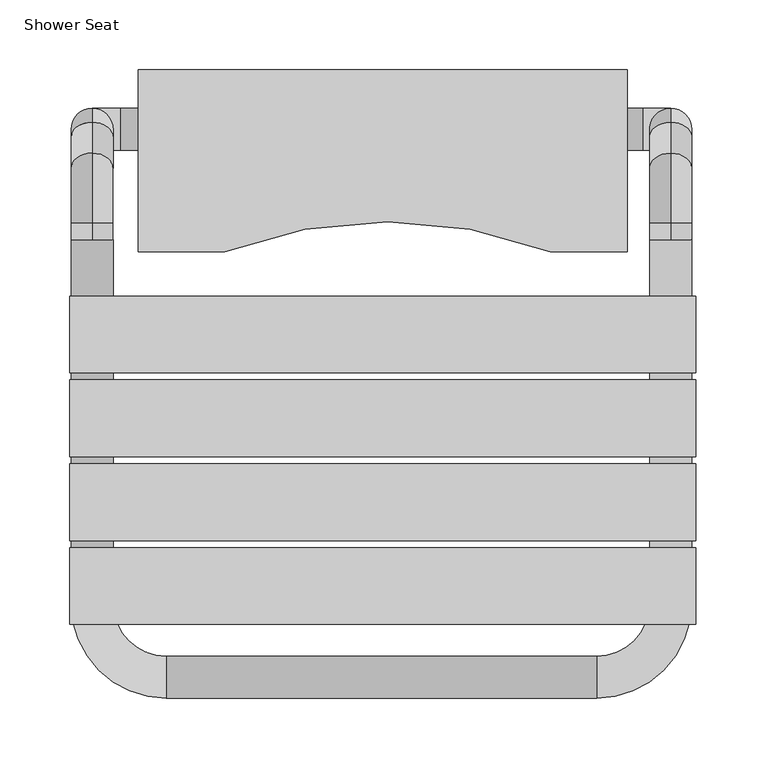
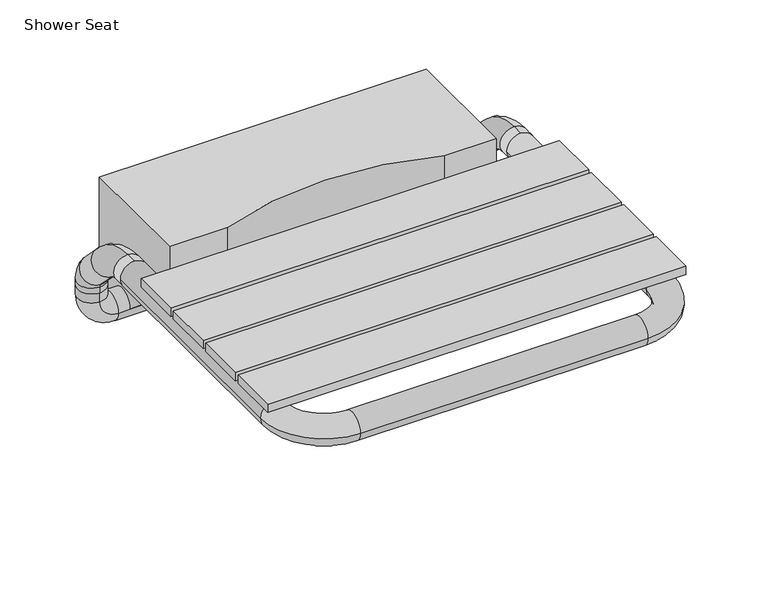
"""IFC4 building model written with IfcOpenShell, lengths in millimetres: flow terminal geometry, Shower - Disabled  Seat : Shower Seat."""

from ifc_helpers import new_model, si_unit, point, frame, origin, place, context, project, spatial, polyline, circle_curve, ellipse_curve, trimmed, outline, extrude, source, transform, mapped, element, save
from ifc_brep_helpers import plane_surface, cylinder_surface, revolved_surface, advanced_brep


def shower_seat_bb0cd458(model_context):
    return source(origin(), model_context, "Body", "SolidModel", [
        extrude(outline(polyline([(224.1757274, -216.8780394), (-223.8242726, -216.8780394), (-223.8242726, -161.8780394), (224.1757274, -161.8780394), (224.1757274, -216.8780394)])), frame((0.0, 0.0, 570.4761319), z_axis=(0.0, 0.0, 1.0), x_axis=(1.0, 0.0, 0.0)), (0.0, 0.0, 1.0), 9.5238681),
        extrude(outline(polyline([(224.1757274, -276.8780394), (-223.8242726, -276.8780394), (-223.8242726, -221.8780394), (224.1757274, -221.8780394), (224.1757274, -276.8780394)])), frame((0.0, 0.0, 570.4761319), z_axis=(0.0, 0.0, 1.0), x_axis=(1.0, 0.0, 0.0)), (0.0, 0.0, 1.0), 9.5238681),
        extrude(outline(polyline([(224.1757274, -336.8780394), (-223.8242726, -336.8780394), (-223.8242726, -281.8780394), (224.1757274, -281.8780394), (224.1757274, -336.8780394)])), frame((0.0, 0.0, 570.4761319), z_axis=(0.0, 0.0, 1.0), x_axis=(1.0, 0.0, 0.0)), (0.0, 0.0, 1.0), 9.5238681),
        extrude(outline(polyline([(224.1757274, -396.5053839), (-223.8242726, -396.5053839), (-223.8242726, -341.8780394), (224.1757274, -341.8780394), (224.1757274, -396.5053839)])), frame((0.0, 0.0, 570.4761319), z_axis=(0.0, 0.0, 1.0), x_axis=(1.0, 0.0, 0.0)), (0.0, 0.0, 1.0), 9.5238681),
        advanced_brep(
        [(174.950484, 0.0, 440.0), (174.950484, 0.0, 580.0), (174.950484, -130.0, 580.0), (174.950484, -130.0, 525.9070409), (174.950484, -57.505188, 465.0766709), (174.950484, -27.5053839, 465.0), (174.950484, -39.8251892, 450.2413904), (174.950484, -27.6199754, 440.0), (-174.950484, 0.0, 440.0), (-174.950484, -27.6199754, 440.0), (-174.950484, -39.8251892, 450.2413904), (-174.950484, -27.5053839, 465.0), (-174.950484, -57.505188, 465.0766709), (-174.950484, -130.0, 525.9070409), (-174.950484, -130.0, 580.0), (-174.950484, 0.0, 580.0), (119.8551, -130.0, 525.9070409), (-112.9496549, -130.0, 525.9070409), (-112.9496549, -130.0, 580.0), (119.8551, -130.0, 580.0), (-207.950484, -27.5053839, 495.0), (-207.950484, -57.5053839, 495.0), (-207.950484, -57.5053839, 485.0), (-207.950484, -27.5053839, 485.0), (-187.950484, -57.5053839, 465.0), (-187.950484, -27.5053839, 465.0), (186.049516, -27.5053839, 465.0), (186.049516, -57.5053839, 465.0), (206.049516, -57.5053839, 485.0), (206.049516, -27.5053839, 485.0), (206.049516, -57.5053839, 495.0), (206.049516, -27.5053839, 495.0), (206.049516, -121.5053839, 540.0), (191.049516, -121.5053839, 555.0), (206.049516, -121.5053839, 570.0), (206.049516, -109.6499656, 570.0), (206.049516, -109.6499656, 540.0), (221.049516, -121.5053839, 555.0), (-207.950484, -121.5053839, 540.0), (-222.950484, -121.5053839, 555.0), (-207.950484, -121.5053839, 570.0), (-207.950484, -109.6499656, 570.0), (-207.950484, -109.6499656, 540.0), (-192.950484, -121.5053839, 555.0), (206.049516, -59.5994988, 548.9382342), (206.049516, -81.0496989, 527.9647053), (-207.950484, -59.5994988, 548.9382342), (-207.950484, -81.0496989, 527.9647053), (206.049516, -37.4801505, 526.3161735), (206.049516, -58.9303506, 505.3426446), (-207.950484, -37.4801505, 526.3161735), (-207.950484, -58.9303506, 505.3426446), (206.049516, -27.5053839, 501.8470564), (206.049516, -57.5053839, 501.8470564), (-207.950484, -27.5053839, 501.8470564), (-207.950484, -57.5053839, 501.8470564), (-222.950484, -381.5053839, 555.0), (-192.950484, -381.5053839, 555.0), (-154.950484, -449.5053839, 555.0), (-154.950484, -419.5053839, 555.0), (153.049516, -449.5053839, 555.0), (153.049516, -419.5053839, 555.0), (221.049516, -381.5053839, 555.0), (191.049516, -381.5053839, 555.0)],
        [
            (0, 1),
            (1, 2),
            (2, 3),
            (3, 4),
            (4, 5, circle_curve(frame((174.950484, -42.5053839, 465.0), z_axis=(-1.0, 0.0, 0.0), x_axis=(0.0, -1.0, 0.0)), 15.0)),
            (5, 6, circle_curve(frame((174.950484, -42.5053839, 465.0), z_axis=(-1.0, 0.0, 0.0), x_axis=(0.0, -1.0, 0.0)), 15.0)),
            (6, 7),
            (7, 0),
            (8, 9),
            (9, 10),
            (10, 11, circle_curve(frame((-174.950484, -42.5053839, 465.0), z_axis=(1.0, 0.0, 0.0), x_axis=(0.0, -1.0, 0.0)), 15.0)),
            (11, 12, circle_curve(frame((-174.950484, -42.5053839, 465.0), z_axis=(1.0, 0.0, 0.0), x_axis=(0.0, -1.0, 0.0)), 15.0)),
            (12, 13),
            (13, 14),
            (14, 15),
            (15, 8),
            (7, 9),
            (8, 0),
            (6, 10),
            (16, 17, ellipse_curve(frame((3.4527225, -439.0287342, 785.2129378), z_axis=(0.0, 0.6427876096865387, 0.7660444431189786), x_axis=(0.0, -0.7660444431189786, 0.6427876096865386)), 431.0775715, 330.2245782)),
            (17, 13),
            (12, 4),
            (3, 16),
            (17, 18),
            (18, 14),
            (2, 19),
            (19, 16),
            (1, 15),
            (18, 19, circle_curve(frame((3.4527225, -439.0287342, 580.0), z_axis=(0.0, 0.0, -1.0), x_axis=(1.0, 0.0, 0.0)), 330.2245782)),
            (20, 21, circle_curve(frame((-207.950484, -42.5053839, 495.0), z_axis=(0.0, 0.0, -1.0), x_axis=(0.0, -1.0, 0.0)), 15.0)),
            (21, 22),
            (22, 23, circle_curve(frame((-207.950484, -42.5053839, 485.0), z_axis=(0.0, 0.0, 1.0), x_axis=(0.0, -1.0, 0.0)), 15.0)),
            (23, 20),
            (23, 22, circle_curve(frame((-207.950484, -42.5053839, 485.0), z_axis=(0.0, 0.0, 1.0), x_axis=(0.0, -1.0, 0.0)), 15.0)),
            (21, 20, circle_curve(frame((-207.950484, -42.5053839, 495.0), z_axis=(0.0, 0.0, -1.0), x_axis=(0.0, -1.0, 0.0)), 15.0)),
            (22, 24, circle_curve(frame((-187.950484, -57.5053839, 485.0), z_axis=(0.0, -1.0, 0.0), x_axis=(-1.0, 0.0, 0.0)), 20.0)),
            (24, 25, circle_curve(frame((-187.950484, -42.5053839, 465.0), z_axis=(-1.0, 0.0, 0.0), x_axis=(0.0, -1.0, 0.0)), 15.0)),
            (25, 23, circle_curve(frame((-187.950484, -27.5053839, 485.0), z_axis=(0.0, 1.0, 0.0), x_axis=(-1.0, 0.0, 0.0)), 20.0)),
            (25, 24, circle_curve(frame((-187.950484, -42.5053839, 465.0), z_axis=(-1.0, 0.0, 0.0), x_axis=(0.0, -1.0, 0.0)), 15.0)),
            (24, 12),
            (11, 25),
            (26, 5),
            (4, 27),
            (27, 26, circle_curve(frame((186.049516, -42.5053839, 465.0), z_axis=(-1.0, 0.0, 0.0), x_axis=(0.0, -1.0, 0.0)), 15.0)),
            (26, 27, circle_curve(frame((186.049516, -42.5053839, 465.0), z_axis=(-1.0, 0.0, 0.0), x_axis=(0.0, -1.0, 0.0)), 15.0)),
            (27, 28, circle_curve(frame((186.049516, -57.5053839, 485.0), z_axis=(0.0, -1.0, 0.0), x_axis=(0.0, 0.0, -1.0)), 20.0)),
            (28, 29, circle_curve(frame((206.049516, -42.5053839, 485.0), z_axis=(0.0, 0.0, -1.0), x_axis=(0.0, -1.0, 0.0)), 15.0)),
            (29, 26, circle_curve(frame((186.049516, -27.5053839, 485.0), z_axis=(0.0, 1.0, 0.0), x_axis=(0.0, 0.0, -1.0)), 20.0)),
            (29, 28, circle_curve(frame((206.049516, -42.5053839, 485.0), z_axis=(0.0, 0.0, -1.0), x_axis=(0.0, -1.0, 0.0)), 15.0)),
            (28, 30),
            (30, 31, circle_curve(frame((206.049516, -42.5053839, 495.0), z_axis=(0.0, 0.0, -1.0), x_axis=(0.0, -1.0, 0.0)), 15.0)),
            (31, 29),
            (31, 30, circle_curve(frame((206.049516, -42.5053839, 495.0), z_axis=(0.0, 0.0, -1.0), x_axis=(0.0, -1.0, 0.0)), 15.0)),
            (32, 33, circle_curve(frame((206.049516, -121.5053839, 555.0), z_axis=(0.0, 1.0, 0.0), x_axis=(0.0, 0.0, 1.0)), 15.0)),
            (33, 34, circle_curve(frame((206.049516, -121.5053839, 555.0), z_axis=(0.0, 1.0, 0.0), x_axis=(0.0, 0.0, 1.0)), 15.0)),
            (34, 35),
            (35, 36, circle_curve(frame((206.049516, -109.6499656, 555.0), z_axis=(0.0, -1.0, 0.0), x_axis=(0.0, 0.0, 1.0)), 15.0)),
            (36, 32),
            (36, 35, circle_curve(frame((206.049516, -109.6499656, 555.0), z_axis=(0.0, -1.0, 0.0), x_axis=(0.0, 0.0, 1.0)), 15.0)),
            (34, 37, circle_curve(frame((206.049516, -121.5053839, 555.0), z_axis=(0.0, 1.0, 0.0), x_axis=(0.0, 0.0, 1.0)), 15.0)),
            (37, 32, circle_curve(frame((206.049516, -121.5053839, 555.0), z_axis=(0.0, 1.0, 0.0), x_axis=(0.0, 0.0, 1.0)), 15.0)),
            (38, 39, circle_curve(frame((-207.950484, -121.5053839, 555.0), z_axis=(0.0, 1.0, 0.0), x_axis=(0.0, 0.0, 1.0)), 15.0)),
            (39, 40, circle_curve(frame((-207.950484, -121.5053839, 555.0), z_axis=(0.0, 1.0, 0.0), x_axis=(0.0, 0.0, 1.0)), 15.0)),
            (40, 41),
            (41, 42, circle_curve(frame((-207.950484, -109.6499656, 555.0), z_axis=(0.0, -1.0, 0.0), x_axis=(0.0, 0.0, 1.0)), 15.0)),
            (42, 38),
            (42, 41, circle_curve(frame((-207.950484, -109.6499656, 555.0), z_axis=(0.0, -1.0, 0.0), x_axis=(0.0, 0.0, 1.0)), 15.0)),
            (40, 43, circle_curve(frame((-207.950484, -121.5053839, 555.0), z_axis=(0.0, 1.0, 0.0), x_axis=(0.0, 0.0, 1.0)), 15.0)),
            (43, 38, circle_curve(frame((-207.950484, -121.5053839, 555.0), z_axis=(0.0, 1.0, 0.0), x_axis=(0.0, 0.0, 1.0)), 15.0)),
            (35, 44, circle_curve(frame((206.049516, -109.6499656, 500.0), z_axis=(-1.0, 0.0, 0.0), x_axis=(0.0, 0.0, 1.0)), 70.0)),
            (44, 45, circle_curve(frame((206.049516, -70.3245988, 538.4514698), z_axis=(0.0, -0.699117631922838, 0.7150066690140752), x_axis=(0.0, 0.7150066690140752, 0.699117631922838)), 15.0)),
            (45, 36, circle_curve(frame((206.049516, -109.6499656, 500.0), z_axis=(1.0, 0.0, 0.0), x_axis=(0.0, 0.0, 1.0)), 40.0)),
            (45, 44, circle_curve(frame((206.049516, -70.3245988, 538.4514698), z_axis=(0.0, -0.6991176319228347, 0.7150066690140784), x_axis=(0.0, 0.7150066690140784, 0.6991176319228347)), 15.0)),
            (41, 46, circle_curve(frame((-207.950484, -109.6499656, 500.0), z_axis=(-1.0, 0.0, 0.0), x_axis=(0.0, 0.0, 1.0)), 70.0)),
            (46, 47, circle_curve(frame((-207.950484, -70.3245988, 538.4514698), z_axis=(0.0, -0.6991176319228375, 0.7150066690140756), x_axis=(0.0, 0.7150066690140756, 0.6991176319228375)), 15.0)),
            (47, 42, circle_curve(frame((-207.950484, -109.6499656, 500.0), z_axis=(1.0, 0.0, 0.0), x_axis=(0.0, 0.0, 1.0)), 40.0)),
            (47, 46, circle_curve(frame((-207.950484, -70.3245988, 538.4514698), z_axis=(0.0, -0.6991176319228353, 0.7150066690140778), x_axis=(0.0, 0.7150066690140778, 0.6991176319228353)), 15.0)),
            (44, 48),
            (48, 49, circle_curve(frame((206.049516, -48.2052506, 515.829409), z_axis=(0.0, -0.6991176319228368, 0.7150066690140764), x_axis=(0.0, 0.7150066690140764, 0.6991176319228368)), 15.0)),
            (49, 45),
            (49, 48, circle_curve(frame((206.049516, -48.2052506, 515.829409), z_axis=(0.0, -0.6991176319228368, 0.7150066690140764), x_axis=(0.0, 0.7150066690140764, 0.6991176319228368)), 15.0)),
            (46, 50),
            (50, 51, circle_curve(frame((-207.950484, -48.2052506, 515.829409), z_axis=(0.0, -0.6991176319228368, 0.7150066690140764), x_axis=(0.0, 0.7150066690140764, 0.6991176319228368)), 15.0)),
            (51, 47),
            (51, 50, circle_curve(frame((-207.950484, -48.2052506, 515.829409), z_axis=(0.0, -0.6991176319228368, 0.7150066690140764), x_axis=(0.0, 0.7150066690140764, 0.6991176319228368)), 15.0)),
            (48, 52, circle_curve(frame((206.049516, -62.5053839, 501.8470564), z_axis=(-1.0, 0.0, 0.0), x_axis=(0.0, 0.7150066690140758, 0.6991176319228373)), 35.0)),
            (52, 53, circle_curve(frame((206.049516, -42.5053839, 501.8470564), z_axis=(0.0, 0.0, 1.0), x_axis=(0.0, 1.0, 0.0)), 15.0)),
            (53, 49, circle_curve(frame((206.049516, -62.5053839, 501.8470564), z_axis=(1.0, 0.0, 0.0), x_axis=(0.0, 0.7150066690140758, 0.6991176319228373)), 5.0)),
            (53, 52, circle_curve(frame((206.049516, -42.5053839, 501.8470564), z_axis=(0.0, 0.0, 0.9999999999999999), x_axis=(0.0, 0.9999999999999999, 0.0)), 15.0)),
            (50, 54, circle_curve(frame((-207.950484, -62.5053839, 501.8470564), z_axis=(-1.0, 0.0, 0.0), x_axis=(0.0, 0.7150066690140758, 0.6991176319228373)), 35.0)),
            (54, 55, circle_curve(frame((-207.950484, -42.5053839, 501.8470564), z_axis=(0.0, 0.0, 1.0), x_axis=(0.0, 1.0, 0.0)), 15.0)),
            (55, 51, circle_curve(frame((-207.950484, -62.5053839, 501.8470564), z_axis=(1.0, 0.0, 0.0), x_axis=(0.0, 0.7150066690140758, 0.6991176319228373)), 5.0)),
            (55, 54, circle_curve(frame((-207.950484, -42.5053839, 501.8470564), z_axis=(0.0, 0.0, 1.0), x_axis=(0.0, 1.0, 0.0)), 15.0)),
            (52, 31),
            (30, 53),
            (54, 20),
            (21, 55),
            (39, 56),
            (56, 57, circle_curve(frame((-207.950484, -381.5053839, 555.0), z_axis=(0.0, 1.0, 0.0), x_axis=(-1.0, 0.0, 0.0)), 15.0)),
            (57, 43),
            (57, 56, circle_curve(frame((-207.950484, -381.5053839, 555.0), z_axis=(0.0, 1.0, 0.0), x_axis=(-1.0, 0.0, 0.0)), 15.0)),
            (56, 58, circle_curve(frame((-154.950484, -381.5053839, 555.0), z_axis=(0.0, 0.0, 1.0), x_axis=(-1.0, 0.0, 0.0)), 68.0)),
            (58, 59, circle_curve(frame((-154.950484, -434.5053839, 555.0), z_axis=(-1.0, 0.0, 0.0), x_axis=(0.0, -1.0, 0.0)), 15.0)),
            (59, 57, circle_curve(frame((-154.950484, -381.5053839, 555.0), z_axis=(0.0, 0.0, -1.0), x_axis=(-1.0, 0.0, 0.0)), 38.0)),
            (59, 58, circle_curve(frame((-154.950484, -434.5053839, 555.0), z_axis=(-1.0, 0.0, 0.0), x_axis=(0.0, -1.0, 0.0)), 15.0)),
            (58, 60),
            (60, 61, circle_curve(frame((153.049516, -434.5053839, 555.0), z_axis=(-1.0, 0.0, 0.0), x_axis=(0.0, -1.0, 0.0)), 15.0)),
            (61, 59),
            (61, 60, circle_curve(frame((153.049516, -434.5053839, 555.0), z_axis=(-1.0, 0.0, 0.0), x_axis=(0.0, -1.0, 0.0)), 15.0)),
            (60, 62, circle_curve(frame((153.049516, -381.5053839, 555.0), z_axis=(0.0, 0.0, 1.0), x_axis=(0.0, -1.0, 0.0)), 68.0)),
            (62, 63, circle_curve(frame((206.049516, -381.5053839, 555.0), z_axis=(0.0, -1.0, 0.0), x_axis=(1.0, 0.0, 0.0)), 15.0)),
            (63, 61, circle_curve(frame((153.049516, -381.5053839, 555.0), z_axis=(0.0, 0.0, -1.0), x_axis=(0.0, -1.0, 0.0)), 38.0)),
            (63, 62, circle_curve(frame((206.049516, -381.5053839, 555.0), z_axis=(0.0, -1.0, 0.0), x_axis=(1.0, 0.0, 0.0)), 15.0)),
            (62, 37),
            (33, 63),
        ],
        [
            plane_surface(frame((174.950484, 0.0, 440.0), z_axis=(1.0, 0.0, 0.0), x_axis=(0.0, -1.0, 0.0))),
            plane_surface(frame((-174.950484, 0.0, 440.0), z_axis=(-1.0, 0.0, 0.0), x_axis=(0.0, 1.0, 0.0))),
            plane_surface(frame((174.950484, 0.0, 440.0), z_axis=(0.0, 0.0, -1.0), x_axis=(-1.0, 0.0, 0.0))),
            plane_surface(frame((174.950484, -27.6199754, 440.0), z_axis=(0.0, -0.6427876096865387, -0.7660444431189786), x_axis=(-1.0, 0.0, 0.0))),
            plane_surface(frame((174.950484, -130.0, 525.9070409), z_axis=(0.0, -1.0, 0.0), x_axis=(-1.0, 0.0, 0.0))),
            plane_surface(frame((174.950484, -130.0, 580.0), z_axis=(0.0, 0.0, 1.0), x_axis=(-1.0, 0.0, 0.0))),
            plane_surface(frame((174.950484, 0.0, 580.0), z_axis=(0.0, 1.0, 0.0), x_axis=(-1.0, 0.0, 0.0))),
            revolved_surface(polyline([(333.6773007, -439.0287342, 1062.304259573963), (333.6773007, -439.0287342, 508.12161602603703)]), (3.4527225, -439.0287342, 440.0), (0.0, 0.0, 1.0)),
            cylinder_surface(frame((-207.950484, -42.5053839, 495.0), z_axis=(0.0, 0.0, 1.0), x_axis=(0.0, -1.0, 0.0)), 15.0),
            revolved_surface(trimmed(ellipse_curve(frame((-207.950484, -42.5053839, 485.0), z_axis=(0.0, 0.0, -1.0), x_axis=(0.0, -1.0, 0.0)), 15.0, 15.0), [point((-207.950484, -27.5053839, 485.0))], [point((-207.950484, -57.5053839, 485.0))], True, "CARTESIAN"), (-187.950484, -42.5053839, 485.0), (0.0, 1.0, 0.0)),
            revolved_surface(trimmed(ellipse_curve(frame((-207.950484, -42.5053839, 485.0), z_axis=(0.0, 0.0, -1.0), x_axis=(0.0, -1.0, 0.0)), 15.0, 15.0), [point((-207.950484, -57.5053839, 485.0))], [point((-207.950484, -27.5053839, 485.0))], True, "CARTESIAN"), (-187.950484, -42.5053839, 485.0), (0.0, 1.0, 0.0)),
            cylinder_surface(frame((-187.950484, -42.5053839, 465.0), z_axis=(-1.0, 0.0, 0.0), x_axis=(0.0, -1.0, 0.0)), 15.0),
            revolved_surface(trimmed(ellipse_curve(frame((186.049516, -42.5053839, 465.0), z_axis=(1.0, 0.0, 0.0), x_axis=(0.0, -1.0, 0.0)), 15.0, 15.0), [point((186.049516, -27.5053839, 465.0))], [point((186.049516, -57.5053839, 465.0))], True, "CARTESIAN"), (186.049516, -42.5053839, 485.0), (0.0, 1.0, 0.0)),
            revolved_surface(trimmed(ellipse_curve(frame((186.049516, -42.5053839, 465.0), z_axis=(1.0, 0.0, 0.0), x_axis=(0.0, -1.0, 0.0)), 15.0, 15.0), [point((186.049516, -57.5053839, 465.0))], [point((186.049516, -27.5053839, 465.0))], True, "CARTESIAN"), (186.049516, -42.5053839, 485.0), (0.0, 1.0, 0.0)),
            cylinder_surface(frame((206.049516, -42.5053839, 485.0), z_axis=(0.0, 0.0, -1.0), x_axis=(0.0, -1.0, 0.0)), 15.0),
            cylinder_surface(frame((206.049516, -121.5053839, 555.0), z_axis=(0.0, -1.0, 0.0), x_axis=(0.0, 0.0, 1.0)), 15.0),
            cylinder_surface(frame((-207.950484, -121.5053839, 555.0), z_axis=(0.0, -1.0, 0.0), x_axis=(0.0, 0.0, 1.0)), 15.0),
            revolved_surface(trimmed(ellipse_curve(frame((206.049516, -109.6499656, 555.0), z_axis=(0.0, 1.0, 0.0), x_axis=(0.0, 0.0, 1.0)), 15.0, 15.0), [point((206.049516, -109.6499656, 540.0))], [point((206.049516, -109.6499656, 570.0))], True, "CARTESIAN"), (206.049516, -109.6499656, 500.0), (1.0, 0.0, 0.0)),
            revolved_surface(trimmed(ellipse_curve(frame((206.049516, -109.6499656, 555.0), z_axis=(0.0, 1.0, 0.0), x_axis=(0.0, 0.0, 1.0)), 15.0, 15.0), [point((206.049516, -109.6499656, 570.0))], [point((206.049516, -109.6499656, 540.0))], True, "CARTESIAN"), (206.049516, -109.6499656, 500.0), (1.0, 0.0, 0.0)),
            revolved_surface(trimmed(ellipse_curve(frame((-207.950484, -109.6499656, 555.0), z_axis=(0.0, 1.0, 0.0), x_axis=(0.0, 0.0, 1.0)), 15.0, 15.0), [point((-207.950484, -109.6499656, 540.0))], [point((-207.950484, -109.6499656, 570.0))], True, "CARTESIAN"), (206.049516, -109.6499656, 500.0), (1.0, 0.0, 0.0)),
            revolved_surface(trimmed(ellipse_curve(frame((-207.950484, -109.6499656, 555.0), z_axis=(0.0, 1.0, 0.0), x_axis=(0.0, 0.0, 1.0)), 15.0, 15.0), [point((-207.950484, -109.6499656, 570.0))], [point((-207.950484, -109.6499656, 540.0))], True, "CARTESIAN"), (206.049516, -109.6499656, 500.0), (1.0, 0.0, 0.0)),
            cylinder_surface(frame((206.049516, -70.3245988, 538.4514698), z_axis=(0.0, -0.6991176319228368, 0.7150066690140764), x_axis=(0.0, 0.7150066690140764, 0.6991176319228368)), 15.0),
            cylinder_surface(frame((-207.950484, -70.3245988, 538.4514698), z_axis=(0.0, -0.6991176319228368, 0.7150066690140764), x_axis=(0.0, 0.7150066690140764, 0.6991176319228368)), 15.0),
            revolved_surface(trimmed(ellipse_curve(frame((206.049516, -48.2052506, 515.829409), z_axis=(0.0, 0.6991176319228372, -0.715006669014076), x_axis=(0.0, 0.715006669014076, 0.6991176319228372)), 15.0, 15.0), [point((206.049516, -58.9303506, 505.3426446))], [point((206.049516, -37.4801505, 526.3161735))], True, "CARTESIAN"), (206.049516, -62.5053839, 501.8470564), (1.0, 0.0, 0.0)),
            revolved_surface(trimmed(ellipse_curve(frame((206.049516, -48.2052506, 515.829409), z_axis=(0.0, 0.6991176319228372, -0.715006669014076), x_axis=(0.0, 0.715006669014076, 0.6991176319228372)), 15.0, 15.0), [point((206.049516, -37.4801505, 526.3161735))], [point((206.049516, -58.9303506, 505.3426446))], True, "CARTESIAN"), (206.049516, -62.5053839, 501.8470564), (1.0, 0.0, 0.0)),
            revolved_surface(trimmed(ellipse_curve(frame((-207.950484, -48.2052506, 515.829409), z_axis=(0.0, 0.6991176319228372, -0.715006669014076), x_axis=(0.0, 0.715006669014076, 0.6991176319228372)), 15.0, 15.0), [point((-207.950484, -58.9303506, 505.3426446))], [point((-207.950484, -37.4801505, 526.3161735))], True, "CARTESIAN"), (206.049516, -62.5053839, 501.8470564), (1.0, 0.0, 0.0)),
            revolved_surface(trimmed(ellipse_curve(frame((-207.950484, -48.2052506, 515.829409), z_axis=(0.0, 0.6991176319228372, -0.715006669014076), x_axis=(0.0, 0.715006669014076, 0.6991176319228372)), 15.0, 15.0), [point((-207.950484, -37.4801505, 526.3161735))], [point((-207.950484, -58.9303506, 505.3426446))], True, "CARTESIAN"), (206.049516, -62.5053839, 501.8470564), (1.0, 0.0, 0.0)),
            cylinder_surface(frame((206.049516, -42.5053839, 501.8470564), z_axis=(0.0, 0.0, 1.0), x_axis=(0.0, 1.0, 0.0)), 15.0),
            cylinder_surface(frame((-207.950484, -42.5053839, 501.8470564), z_axis=(0.0, 0.0, 1.0), x_axis=(0.0, 1.0, 0.0)), 15.0),
            cylinder_surface(frame((-207.950484, -121.5053839, 555.0), z_axis=(0.0, 1.0, 0.0), x_axis=(-1.0, 0.0, 0.0)), 15.0),
            revolved_surface(trimmed(ellipse_curve(frame((-207.950484, -381.5053839, 555.0), z_axis=(0.0, -1.0, 0.0), x_axis=(-1.0, 0.0, 0.0)), 15.0, 15.0), [point((-192.950484, -381.5053839, 555.0))], [point((-222.950484, -381.5053839, 555.0))], True, "CARTESIAN"), (-154.950484, -381.5053839, 555.0), (0.0, 0.0, -1.0)),
            revolved_surface(trimmed(ellipse_curve(frame((-207.950484, -381.5053839, 555.0), z_axis=(0.0, -1.0, 0.0), x_axis=(-1.0, 0.0, 0.0)), 15.0, 15.0), [point((-222.950484, -381.5053839, 555.0))], [point((-192.950484, -381.5053839, 555.0))], True, "CARTESIAN"), (-154.950484, -381.5053839, 555.0), (0.0, 0.0, -1.0)),
            cylinder_surface(frame((-154.950484, -434.5053839, 555.0), z_axis=(-1.0, 0.0, 0.0), x_axis=(0.0, -1.0, 0.0)), 15.0),
            revolved_surface(trimmed(ellipse_curve(frame((153.049516, -434.5053839, 555.0), z_axis=(1.0, 0.0, 0.0), x_axis=(0.0, -1.0, 0.0)), 15.0, 15.0), [point((153.049516, -419.5053839, 555.0))], [point((153.049516, -449.5053839, 555.0))], True, "CARTESIAN"), (153.049516, -381.5053839, 555.0), (0.0, 0.0, -1.0)),
            revolved_surface(trimmed(ellipse_curve(frame((153.049516, -434.5053839, 555.0), z_axis=(1.0, 0.0, 0.0), x_axis=(0.0, -1.0, 0.0)), 15.0, 15.0), [point((153.049516, -449.5053839, 555.0))], [point((153.049516, -419.5053839, 555.0))], True, "CARTESIAN"), (153.049516, -381.5053839, 555.0), (0.0, 0.0, -1.0)),
            cylinder_surface(frame((206.049516, -381.5053839, 555.0), z_axis=(0.0, -1.0, 0.0), x_axis=(1.0, 0.0, 0.0)), 15.0),
        ],
        [
            (0, [[1, 2, 3, 4, 5, 6, 7, 8]]),
            (1, [[9, 10, 11, 12, 13, 14, 15, 16]]),
            (2, [[17, -9, 18, -8]]),
            (3, [[-7, 19, -10, -17]]),
            (3, [[20, 21, -13, 22, -4, 23]]),
            (4, [[-21, 24, 25, -14]]),
            (4, [[26, 27, -23, -3]]),
            (5, [[28, -15, -25, 29, -26, -2]]),
            (6, [[-18, -16, -28, -1]]),
            (7, [[-27, -29, -24, -20]]),
            (8, [[30, 31, 32, 33]]),
            (8, [[34, -31, 35, -33]]),
            (9, [[36, 37, 38, -32]]),
            (10, [[-38, 39, -36, -34]]),
            (11, [[40, -12, 41, -37]]),
            (11, [[42, -5, 43, 44]]),
            (11, [[-41, -11, -19, -6, -42, 45, -43, -22, -40, -39]]),
            (12, [[46, 47, 48, -44]]),
            (13, [[-48, 49, -46, -45]]),
            (14, [[50, 51, 52, -47]]),
            (14, [[-52, 53, -50, -49]]),
            (15, [[54, 55, 56, 57, 58]]),
            (15, [[59, -56, 60, 61, -58]]),
            (16, [[62, 63, 64, 65, 66]]),
            (16, [[67, -64, 68, 69, -66]]),
            (17, [[70, 71, 72, -57]]),
            (18, [[-72, 73, -70, -59]]),
            (19, [[74, 75, 76, -65]]),
            (20, [[-76, 77, -74, -67]]),
            (21, [[78, 79, 80, -71]]),
            (21, [[-80, 81, -78, -73]]),
            (22, [[82, 83, 84, -75]]),
            (22, [[-84, 85, -82, -77]]),
            (23, [[86, 87, 88, -79]]),
            (24, [[-88, 89, -86, -81]]),
            (25, [[90, 91, 92, -83]]),
            (26, [[-92, 93, -90, -85]]),
            (27, [[94, -51, 95, -87]]),
            (27, [[-95, -53, -94, -89]]),
            (28, [[96, -35, 97, -91]]),
            (28, [[-97, -30, -96, -93]]),
            (29, [[-68, -63, 98, 99, 100]]),
            (29, [[101, -98, -62, -69, -100]]),
            (30, [[102, 103, 104, -99]]),
            (31, [[-104, 105, -102, -101]]),
            (32, [[106, 107, 108, -103]]),
            (32, [[-108, 109, -106, -105]]),
            (33, [[110, 111, 112, -107]]),
            (34, [[-112, 113, -110, -109]]),
            (35, [[114, -60, -55, 115, -111]]),
            (35, [[-115, -54, -61, -114, -113]]),
        ],
    ),
    ])


if __name__ == "__main__":
    model = new_model("IFC4")
    model_context = context("Model", 3, world=origin())
    ifc_project = project(units=[si_unit("LENGTHUNIT", "METRE", prefix="MILLI")], contexts=[model_context])
    site = spatial("IfcSite", under=ifc_project)
    building = spatial("IfcBuilding", under=site)
    placement = place(None, origin())
    shower_seat_shape = shower_seat_bb0cd458(model_context)
    element("IfcFlowTerminal", 1, ObjectType="Shower - Disabled  Seat : Shower Seat", at=placement, inside=building, context=model_context, shape_type="MappedRepresentation", body=[
        mapped(shower_seat_shape, transform((0.0, 0.0, 0.0), x_axis=(1.0, 0.0, 0.0), y_axis=(0.0, 1.0, 0.0), z_axis=(0.0, 0.0, 1.0))),
    ])
    save(model, "model.ifc")
